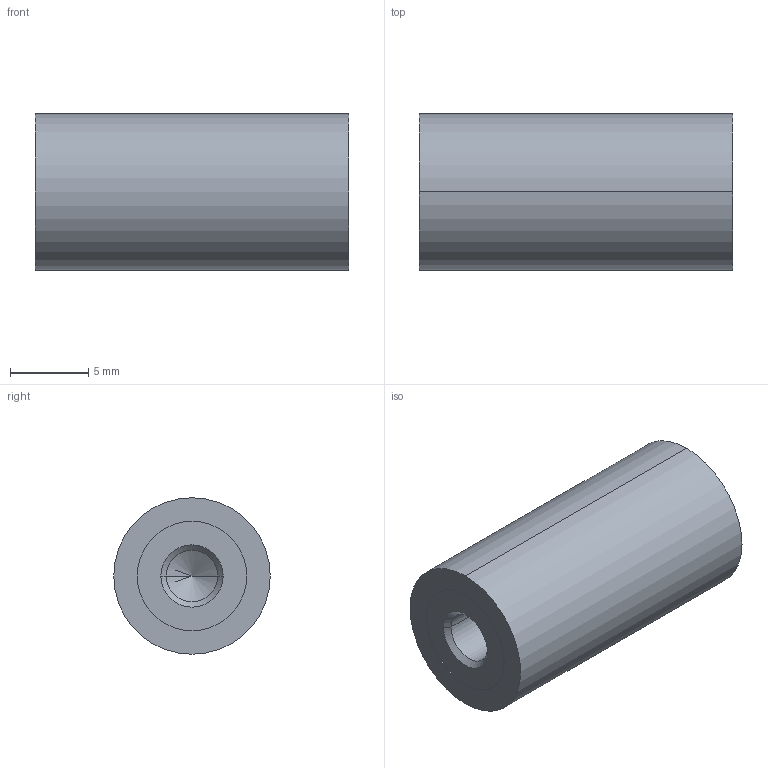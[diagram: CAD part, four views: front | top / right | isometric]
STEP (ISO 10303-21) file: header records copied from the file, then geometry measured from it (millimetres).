
FILE_DESCRIPTION (( 'STEP AP214' ), '1' );
FILE_NAME ('451-10-20-M4-EE-40.step', '2020-03-05T09:09:04', ( '' ), ( '' ), 'SwSTEP 2.0', 'SolidWorks 2019', '' );
FILE_SCHEMA (( 'AUTOMOTIVE_DESIGN' ));
Length unit declared in the file: millimetre
Products named in the file (1): 451-10-20-M4-EE-40
Bounding box: 20 x 10 x 10 mm (x, y, z)
Volume: 1494.8 mm3; surface area: 867.6 mm2
Topology: 1 solids, 1 shells, 22 faces, 46 edges, 26 vertices
Faces by surface type: cylinder 10, cone 8, plane 4
Entity records: 684 total; most frequent: DIRECTION 112, CARTESIAN_POINT 91, ORIENTED_EDGE 84, AXIS2_PLACEMENT_3D 47, EDGE_CURVE 42, EDGE_LOOP 26, VERTEX_POINT 26, CIRCLE 24
